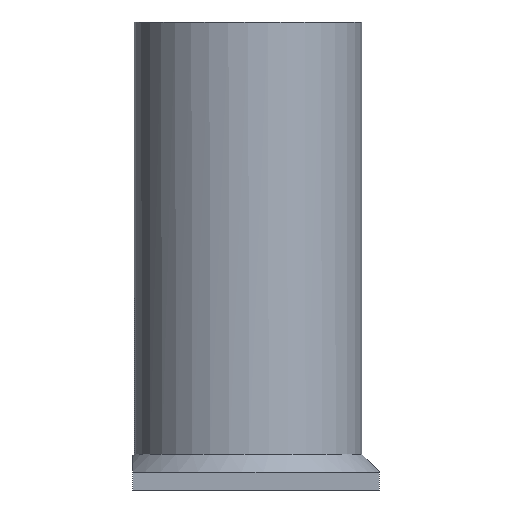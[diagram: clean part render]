
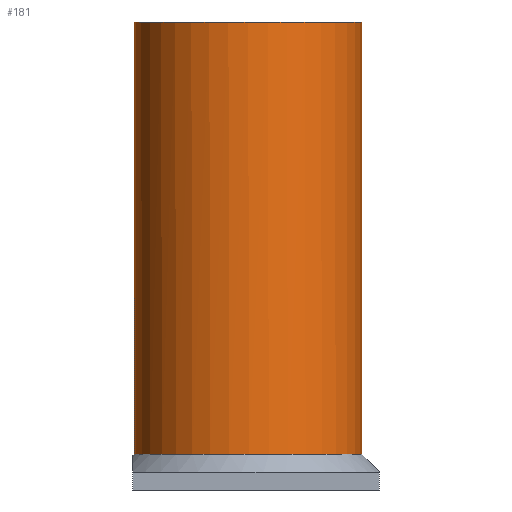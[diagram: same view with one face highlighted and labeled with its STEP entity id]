
A CAD part, front view. The second image highlights one B-rep face of the part: STEP entity #181.
In plain terms, the highlighted cylindrical face has radius 6.32 mm (diameter 12.64 mm), a full revolution.
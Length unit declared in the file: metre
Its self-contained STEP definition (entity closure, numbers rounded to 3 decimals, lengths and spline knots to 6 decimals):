
#14=CYLINDRICAL_SURFACE('',#209,0.00632);
#21=CIRCLE('',#210,0.00632);
#22=CIRCLE('',#211,0.00632);
#58=ORIENTED_EDGE('',*,*,#87,.T.);
#59=ORIENTED_EDGE('',*,*,#88,.F.);
#87=EDGE_CURVE('',#103,#103,#21,.T.);
#88=EDGE_CURVE('',#104,#104,#22,.T.);
#103=VERTEX_POINT('',#317);
#104=VERTEX_POINT('',#319);
#143=EDGE_LOOP('',(#58));
#144=EDGE_LOOP('',(#59));
#159=FACE_BOUND('',#143,.T.);
#160=FACE_BOUND('',#144,.T.);
#181=ADVANCED_FACE('',(#159,#160),#14,.T.);
#209=AXIS2_PLACEMENT_3D('',#315,#254,#255);
#210=AXIS2_PLACEMENT_3D('',#316,#256,#257);
#211=AXIS2_PLACEMENT_3D('',#318,#258,#259);
#254=DIRECTION('',(0.,0.,-1.));
#255=DIRECTION('',(-1.,0.,0.));
#256=DIRECTION('',(0.,0.,1.));
#257=DIRECTION('',(1.,0.,0.));
#258=DIRECTION('',(0.,0.,1.));
#259=DIRECTION('',(1.,0.,0.));
#315=CARTESIAN_POINT('',(0.006413,0.00805,0.026));
#316=CARTESIAN_POINT('',(0.006413,0.00805,0.002));
#317=CARTESIAN_POINT('',(0.012733,0.00805,0.002));
#318=CARTESIAN_POINT('',(0.006413,0.00805,0.026));
#319=CARTESIAN_POINT('',(0.012733,0.00805,0.026));
